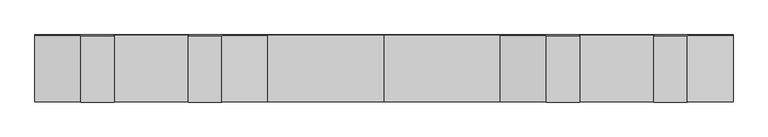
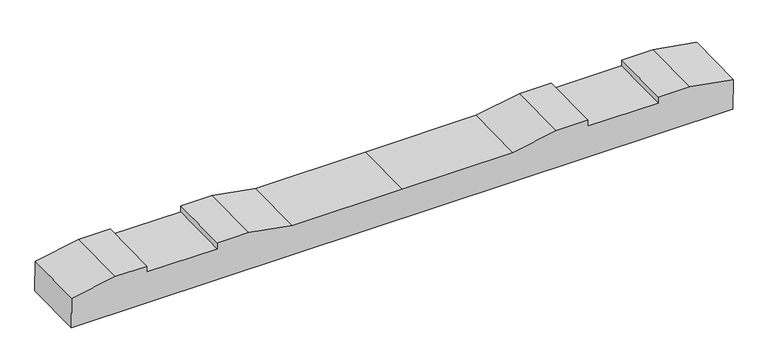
"""IFC4 building model written with IfcOpenShell, lengths in millimetres: proxy geometry, 轨枕-立面角度 : 轨枕-立面角度."""

from ifc_helpers import new_model, si_unit, frame, origin, place, context, project, spatial, polyline, outline, extrude, source, transform, mapped, element, save


def generic_models_f7b6edd5(model_context):
    return source(origin(), model_context, "Body", "SweptSolid", [
        extrude(outline(polyline([(0.0, 0.0), (2099.7669328, 0.0), (2099.7669328, -100.0206889), (1961.8834664, -124.5), (1861.8834664, -124.5), (1861.8834664, -104.5), (1637.8834664, -104.5), (1637.8834664, -124.5), (1537.8834664, -124.5), (1399.8834664, -100.0), (1049.8834664, -100.0), (699.8834664, -100.0), (561.8834664, -124.5), (461.8834664, -124.5), (461.8834664, -104.5), (237.8834664, -104.5), (237.8834664, -124.5), (137.8834664, -124.5), (0.0, -100.0206889), (0.0, 0.0)])), frame((-1049.8834664, -98.401004, -106.0070394), z_axis=(0.0, 0.9998846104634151, 0.015190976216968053), x_axis=(1.0, 0.0, 0.0)), (0.0, 0.0, 1.0), 200.0),
    ])


if __name__ == "__main__":
    model = new_model("IFC4")
    model_context = context("Model", 3, world=origin())
    ifc_project = project(units=[si_unit("LENGTHUNIT", "METRE", prefix="MILLI")], contexts=[model_context])
    site = spatial("IfcSite", under=ifc_project)
    building = spatial("IfcBuilding", under=site)
    placement = place(None, origin())
    generic_models_shape = generic_models_f7b6edd5(model_context)
    element("IfcBuildingElementProxy", 1, Name="轨枕-立面角度 : 轨枕-立面角度", ObjectType="轨枕-立面角度 : 轨枕-立面角度", at=placement, inside=building, context=model_context, shape_type="MappedRepresentation", body=[
        mapped(generic_models_shape, transform((0.0, 0.0, 0.0), x_axis=(1.0, 0.0, 0.0), y_axis=(0.0, 1.0, 0.0), z_axis=(0.0, 0.0, 1.0))),
    ])
    save(model, "model.ifc")
